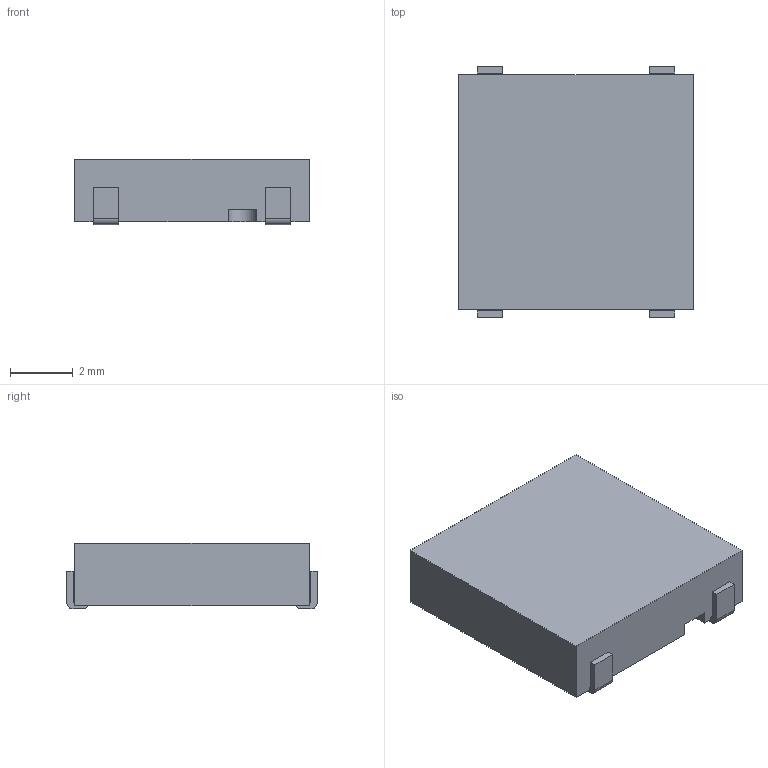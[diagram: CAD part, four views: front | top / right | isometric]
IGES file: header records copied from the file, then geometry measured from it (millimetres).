
Global section: file name: No Iges File Name specified; native system: Autodesk Inventor 2011; preprocessor: AutoDesk Inventor Iges Exporter R2011; author: Dunn; date: 20120111.085049; units: millimetre
Bounding box: 7.5 x 8 x 2.1 mm (x, y, z)
Volume: 105.7 mm3; surface area: 313.1 mm2
Topology: 1 solids, 1 shells, 296 faces, 776 edges, 480 vertices
Faces by surface type: plane 129, cylinder 62, bspline 36, revolution 32, torus 25, cone 8, sphere 4
